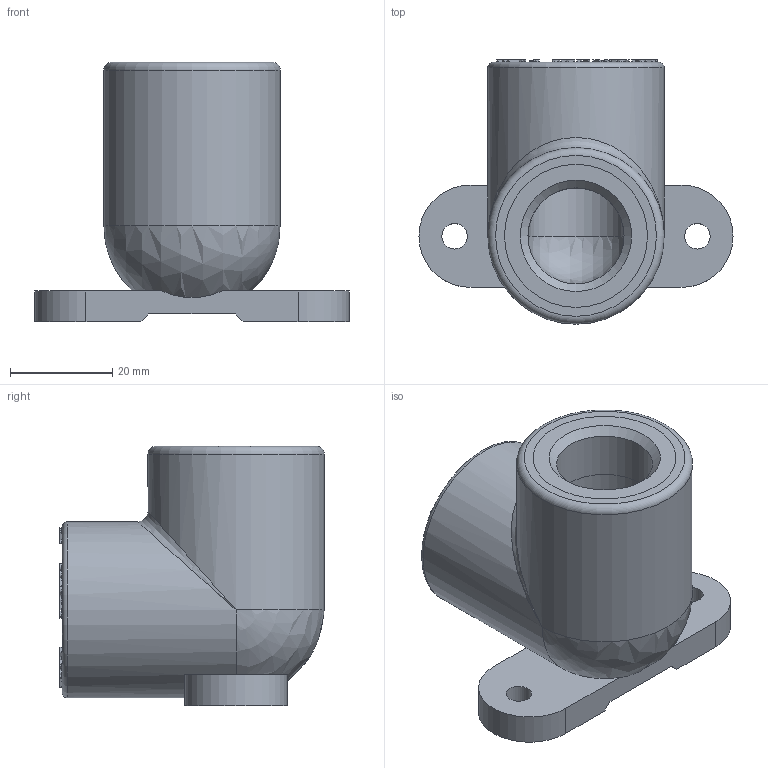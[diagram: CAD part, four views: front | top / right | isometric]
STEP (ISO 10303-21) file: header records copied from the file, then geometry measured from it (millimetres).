
FILE_DESCRIPTION(('STEP AP203'), '1');
FILE_NAME('ÂÐ.731244.028 - VTp.754.0.02504', '', ('UNSPECIFIED'), ('UNSPECIFIED'), 'C3D Converter', 'C3D Toolkit', '');
FILE_SCHEMA(('CONFIG_CONTROL_DESIGN'));
Length unit declared in the file: millimetre
Products named in the file (4): ВР.731244.028; ВР.302639.014.000; ВР.713661.001
Assembly tree (3 placements, depth 3):
  ВР.731244.028
    ВР.302639.014.000
      ВР.713661.001
      (unnamed)
Bounding box: 61.5 x 51.75 x 50.75 mm (x, y, z)
Volume: 44111.8 mm3; surface area: 21543.4 mm2
Topology: 3 solids, 3 shells, 750 faces, 2043 edges, 1355 vertices
Faces by surface type: extrusion 375, plane 307, cylinder 53, torus 8, cone 4, sphere 2, bspline 1
Full cylindrical faces by diameter (mm): 5 x2, 18.8 x3, 21.5 x2, 24 x8, 28 x10, 34.5 x2
Entity records: 24461 total; most frequent: CARTESIAN_POINT 6802, ORIENTED_EDGE 3984, DIRECTION 2504, EDGE_CURVE 1992, VECTOR 1488, VERTEX_POINT 1348, B_SPLINE_CURVE_WITH_KNOTS 1128, LINE 1113
